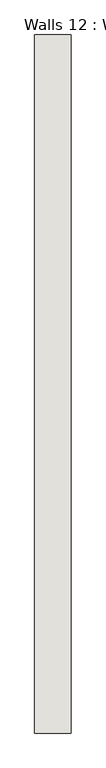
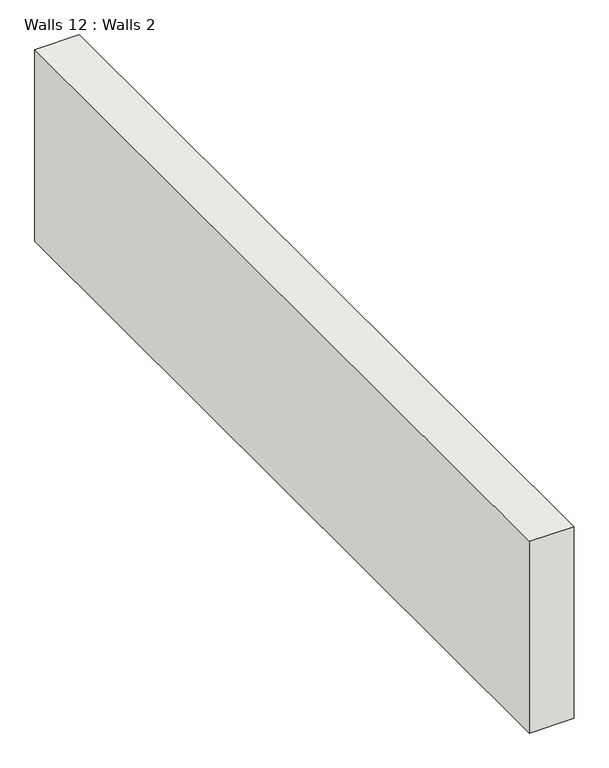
"""IFC4 building model written with IfcOpenShell, lengths in millimetres: wall geometry, Walls 12 : Walls 2."""

from ifc_helpers import new_model, si_unit, frame, origin, place, context, project, spatial, polyline, outline, extrude, source, transform, mapped, element, save


def walls_12_walls_2_642f7b6c(model_context):
    return source(origin(), model_context, "Body", "SweptSolid", [
        extrude(outline(polyline([(7414.8405985, 3603.7823378), (7490.0690161, 3603.7823378), (7490.0690161, 2153.7823813), (7414.8405985, 2153.7823813), (7414.8405985, 3603.7823378)])), frame((0.0, 0.0, 330.1752743), z_axis=(0.0, 0.0, 1.0), x_axis=(1.0, 0.0, 0.0)), (0.0, 0.0, 1.0), 342.9504948),
    ])


if __name__ == "__main__":
    model = new_model("IFC4")
    model_context = context("Model", 3, world=origin())
    ifc_project = project(units=[si_unit("LENGTHUNIT", "METRE", prefix="MILLI")], contexts=[model_context])
    site = spatial("IfcSite", under=ifc_project)
    building = spatial("IfcBuilding", under=site)
    placement = place(None, origin())
    walls_12_walls_2_shape = walls_12_walls_2_642f7b6c(model_context)
    element("IfcWall", 1, ObjectType="Walls 12 : Walls 2", at=placement, inside=building, context=model_context, shape_type="MappedRepresentation", body=[
        mapped(walls_12_walls_2_shape, transform((0.0, 0.0, 0.0), x_axis=(1.0, 0.0, 0.0), y_axis=(0.0, 1.0, 0.0), z_axis=(0.0, 0.0, 1.0))),
    ])
    save(model, "model.ifc")
